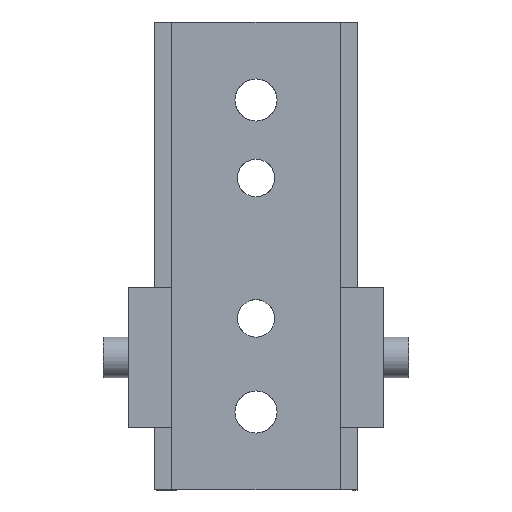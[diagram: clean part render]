
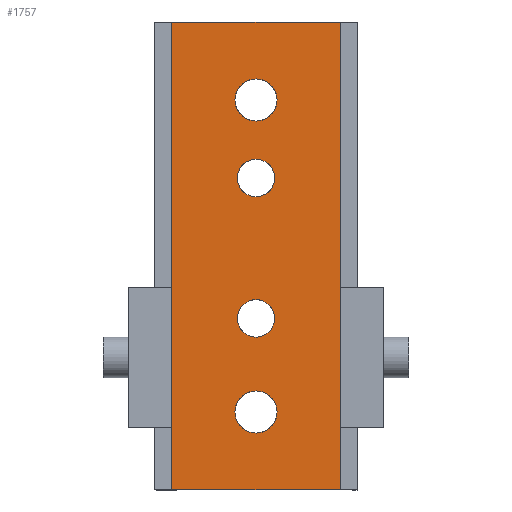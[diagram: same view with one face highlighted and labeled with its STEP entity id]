
A CAD part, front view. The second image highlights one B-rep face of the part: STEP entity #1757.
In plain terms, the highlighted planar face has unit normal (0, -1, 0).
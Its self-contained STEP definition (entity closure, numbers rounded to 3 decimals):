
#674=CARTESIAN_POINT('Vertex',(-5027.207,-575.36,0.)) ;
#677=CARTESIAN_POINT('Line Origine',(-5027.207,-575.36,75.)) ;
#681=CARTESIAN_POINT('Vertex',(-5027.207,-575.36,150.)) ;
#1567=CARTESIAN_POINT('Vertex',(-4973.207,-575.36,150.)) ;
#1570=CARTESIAN_POINT('Line Origine',(-4973.207,-575.36,75.)) ;
#1574=CARTESIAN_POINT('Vertex',(-4973.207,-575.36,0.)) ;
#1600=CARTESIAN_POINT('Axis2P3D Location',(-5027.207,-575.36,150.)) ;
#1605=CARTESIAN_POINT('Line Origine',(-5000.207,-575.36,0.)) ;
#1610=CARTESIAN_POINT('Line Origine',(-5000.207,-575.36,150.)) ;
#1621=CARTESIAN_POINT('Axis2P3D Location',(-5000.207,-575.36,100.)) ;
#1625=CARTESIAN_POINT('Vertex',(-4994.207,-575.36,100.)) ;
#1627=CARTESIAN_POINT('Vertex',(-5000.207,-575.36,94.)) ;
#1630=CARTESIAN_POINT('Axis2P3D Location',(-5000.207,-575.36,100.)) ;
#1634=CARTESIAN_POINT('Vertex',(-5006.207,-575.36,100.)) ;
#1637=CARTESIAN_POINT('Axis2P3D Location',(-5000.207,-575.36,100.)) ;
#1641=CARTESIAN_POINT('Vertex',(-5000.207,-575.36,106.)) ;
#1644=CARTESIAN_POINT('Axis2P3D Location',(-5000.207,-575.36,100.)) ;
#1655=CARTESIAN_POINT('Axis2P3D Location',(-5000.207,-575.36,55.)) ;
#1659=CARTESIAN_POINT('Vertex',(-4994.207,-575.36,55.)) ;
#1661=CARTESIAN_POINT('Vertex',(-5000.207,-575.36,49.)) ;
#1664=CARTESIAN_POINT('Axis2P3D Location',(-5000.207,-575.36,55.)) ;
#1668=CARTESIAN_POINT('Vertex',(-5006.207,-575.36,55.)) ;
#1671=CARTESIAN_POINT('Axis2P3D Location',(-5000.207,-575.36,55.)) ;
#1675=CARTESIAN_POINT('Vertex',(-5000.207,-575.36,61.)) ;
#1678=CARTESIAN_POINT('Axis2P3D Location',(-5000.207,-575.36,55.)) ;
#1689=CARTESIAN_POINT('Axis2P3D Location',(-5000.207,-575.36,125.)) ;
#1693=CARTESIAN_POINT('Vertex',(-4993.457,-575.36,125.)) ;
#1695=CARTESIAN_POINT('Vertex',(-5000.207,-575.36,118.25)) ;
#1698=CARTESIAN_POINT('Axis2P3D Location',(-5000.207,-575.36,125.)) ;
#1702=CARTESIAN_POINT('Vertex',(-5006.957,-575.36,125.)) ;
#1705=CARTESIAN_POINT('Axis2P3D Location',(-5000.207,-575.36,125.)) ;
#1709=CARTESIAN_POINT('Vertex',(-5000.207,-575.36,131.75)) ;
#1712=CARTESIAN_POINT('Axis2P3D Location',(-5000.207,-575.36,125.)) ;
#1723=CARTESIAN_POINT('Axis2P3D Location',(-5000.207,-575.36,25.)) ;
#1727=CARTESIAN_POINT('Vertex',(-4993.457,-575.36,25.)) ;
#1729=CARTESIAN_POINT('Vertex',(-5000.207,-575.36,18.25)) ;
#1732=CARTESIAN_POINT('Axis2P3D Location',(-5000.207,-575.36,25.)) ;
#1736=CARTESIAN_POINT('Vertex',(-5006.957,-575.36,25.)) ;
#1739=CARTESIAN_POINT('Axis2P3D Location',(-5000.207,-575.36,25.)) ;
#1743=CARTESIAN_POINT('Vertex',(-5000.207,-575.36,31.75)) ;
#1746=CARTESIAN_POINT('Axis2P3D Location',(-5000.207,-575.36,25.)) ;
#678=DIRECTION('Vector Direction',(0.,0.,-1.)) ;
#1571=DIRECTION('Vector Direction',(0.,0.,-1.)) ;
#1601=DIRECTION('Axis2P3D Direction',(0.,1.,0.)) ;
#1602=DIRECTION('Axis2P3D XDirection',(0.,-0.,1.)) ;
#1606=DIRECTION('Vector Direction',(1.,0.,0.)) ;
#1611=DIRECTION('Vector Direction',(1.,0.,0.)) ;
#1622=DIRECTION('Axis2P3D Direction',(0.,1.,0.)) ;
#1631=DIRECTION('Axis2P3D Direction',(0.,1.,0.)) ;
#1638=DIRECTION('Axis2P3D Direction',(0.,1.,0.)) ;
#1645=DIRECTION('Axis2P3D Direction',(0.,1.,0.)) ;
#1656=DIRECTION('Axis2P3D Direction',(0.,1.,0.)) ;
#1665=DIRECTION('Axis2P3D Direction',(0.,1.,0.)) ;
#1672=DIRECTION('Axis2P3D Direction',(0.,1.,0.)) ;
#1679=DIRECTION('Axis2P3D Direction',(0.,1.,0.)) ;
#1690=DIRECTION('Axis2P3D Direction',(0.,1.,0.)) ;
#1699=DIRECTION('Axis2P3D Direction',(0.,1.,0.)) ;
#1706=DIRECTION('Axis2P3D Direction',(0.,1.,0.)) ;
#1713=DIRECTION('Axis2P3D Direction',(0.,1.,0.)) ;
#1724=DIRECTION('Axis2P3D Direction',(0.,1.,0.)) ;
#1733=DIRECTION('Axis2P3D Direction',(0.,1.,0.)) ;
#1740=DIRECTION('Axis2P3D Direction',(0.,1.,0.)) ;
#1747=DIRECTION('Axis2P3D Direction',(0.,1.,0.)) ;
#1603=AXIS2_PLACEMENT_3D('Plane Axis2P3D',#1600,#1601,#1602) ;
#1623=AXIS2_PLACEMENT_3D('Circle Axis2P3D',#1621,#1622,$) ;
#1632=AXIS2_PLACEMENT_3D('Circle Axis2P3D',#1630,#1631,$) ;
#1639=AXIS2_PLACEMENT_3D('Circle Axis2P3D',#1637,#1638,$) ;
#1646=AXIS2_PLACEMENT_3D('Circle Axis2P3D',#1644,#1645,$) ;
#1657=AXIS2_PLACEMENT_3D('Circle Axis2P3D',#1655,#1656,$) ;
#1666=AXIS2_PLACEMENT_3D('Circle Axis2P3D',#1664,#1665,$) ;
#1673=AXIS2_PLACEMENT_3D('Circle Axis2P3D',#1671,#1672,$) ;
#1680=AXIS2_PLACEMENT_3D('Circle Axis2P3D',#1678,#1679,$) ;
#1691=AXIS2_PLACEMENT_3D('Circle Axis2P3D',#1689,#1690,$) ;
#1700=AXIS2_PLACEMENT_3D('Circle Axis2P3D',#1698,#1699,$) ;
#1707=AXIS2_PLACEMENT_3D('Circle Axis2P3D',#1705,#1706,$) ;
#1714=AXIS2_PLACEMENT_3D('Circle Axis2P3D',#1712,#1713,$) ;
#1725=AXIS2_PLACEMENT_3D('Circle Axis2P3D',#1723,#1724,$) ;
#1734=AXIS2_PLACEMENT_3D('Circle Axis2P3D',#1732,#1733,$) ;
#1741=AXIS2_PLACEMENT_3D('Circle Axis2P3D',#1739,#1740,$) ;
#1748=AXIS2_PLACEMENT_3D('Circle Axis2P3D',#1746,#1747,$) ;
#1616=ORIENTED_EDGE('',*,*,#1609,.T.) ;
#1617=ORIENTED_EDGE('',*,*,#1576,.F.) ;
#1618=ORIENTED_EDGE('',*,*,#1614,.F.) ;
#1619=ORIENTED_EDGE('',*,*,#683,.T.) ;
#1650=ORIENTED_EDGE('',*,*,#1629,.T.) ;
#1651=ORIENTED_EDGE('',*,*,#1636,.T.) ;
#1652=ORIENTED_EDGE('',*,*,#1643,.T.) ;
#1653=ORIENTED_EDGE('',*,*,#1648,.T.) ;
#1684=ORIENTED_EDGE('',*,*,#1663,.T.) ;
#1685=ORIENTED_EDGE('',*,*,#1670,.T.) ;
#1686=ORIENTED_EDGE('',*,*,#1677,.T.) ;
#1687=ORIENTED_EDGE('',*,*,#1682,.T.) ;
#1718=ORIENTED_EDGE('',*,*,#1697,.T.) ;
#1719=ORIENTED_EDGE('',*,*,#1704,.T.) ;
#1720=ORIENTED_EDGE('',*,*,#1711,.T.) ;
#1721=ORIENTED_EDGE('',*,*,#1716,.T.) ;
#1752=ORIENTED_EDGE('',*,*,#1731,.T.) ;
#1753=ORIENTED_EDGE('',*,*,#1738,.T.) ;
#1754=ORIENTED_EDGE('',*,*,#1745,.T.) ;
#1755=ORIENTED_EDGE('',*,*,#1750,.T.) ;
#1654=FACE_BOUND('',#1649,.T.) ;
#1688=FACE_BOUND('',#1683,.T.) ;
#1722=FACE_BOUND('',#1717,.T.) ;
#1756=FACE_BOUND('',#1751,.T.) ;
#679=VECTOR('Line Direction',#678,1.) ;
#1572=VECTOR('Line Direction',#1571,1.) ;
#1607=VECTOR('Line Direction',#1606,1.) ;
#1612=VECTOR('Line Direction',#1611,1.) ;
#1757=ADVANCED_FACE('A945-01-615-01-S-BC',(#1620,#1654,#1688,#1722,#1756),#1604,.F.) ;
#1624=CIRCLE('generated circle',#1623,6.) ;
#1633=CIRCLE('generated circle',#1632,6.) ;
#1640=CIRCLE('generated circle',#1639,6.) ;
#1647=CIRCLE('generated circle',#1646,6.) ;
#1658=CIRCLE('generated circle',#1657,6.) ;
#1667=CIRCLE('generated circle',#1666,6.) ;
#1674=CIRCLE('generated circle',#1673,6.) ;
#1681=CIRCLE('generated circle',#1680,6.) ;
#1692=CIRCLE('generated circle',#1691,6.75) ;
#1701=CIRCLE('generated circle',#1700,6.75) ;
#1708=CIRCLE('generated circle',#1707,6.75) ;
#1715=CIRCLE('generated circle',#1714,6.75) ;
#1726=CIRCLE('generated circle',#1725,6.75) ;
#1735=CIRCLE('generated circle',#1734,6.75) ;
#1742=CIRCLE('generated circle',#1741,6.75) ;
#1749=CIRCLE('generated circle',#1748,6.75) ;
#683=EDGE_CURVE('',#682,#675,#680,.T.) ;
#1576=EDGE_CURVE('',#1568,#1575,#1573,.T.) ;
#1609=EDGE_CURVE('',#675,#1575,#1608,.T.) ;
#1614=EDGE_CURVE('',#682,#1568,#1613,.T.) ;
#1629=EDGE_CURVE('',#1626,#1628,#1624,.T.) ;
#1636=EDGE_CURVE('',#1628,#1635,#1633,.T.) ;
#1643=EDGE_CURVE('',#1635,#1642,#1640,.T.) ;
#1648=EDGE_CURVE('',#1642,#1626,#1647,.T.) ;
#1663=EDGE_CURVE('',#1660,#1662,#1658,.T.) ;
#1670=EDGE_CURVE('',#1662,#1669,#1667,.T.) ;
#1677=EDGE_CURVE('',#1669,#1676,#1674,.T.) ;
#1682=EDGE_CURVE('',#1676,#1660,#1681,.T.) ;
#1697=EDGE_CURVE('',#1694,#1696,#1692,.T.) ;
#1704=EDGE_CURVE('',#1696,#1703,#1701,.T.) ;
#1711=EDGE_CURVE('',#1703,#1710,#1708,.T.) ;
#1716=EDGE_CURVE('',#1710,#1694,#1715,.T.) ;
#1731=EDGE_CURVE('',#1728,#1730,#1726,.T.) ;
#1738=EDGE_CURVE('',#1730,#1737,#1735,.T.) ;
#1745=EDGE_CURVE('',#1737,#1744,#1742,.T.) ;
#1750=EDGE_CURVE('',#1744,#1728,#1749,.T.) ;
#1615=EDGE_LOOP('',(#1616,#1617,#1618,#1619)) ;
#1649=EDGE_LOOP('',(#1650,#1651,#1652,#1653)) ;
#1683=EDGE_LOOP('',(#1684,#1685,#1686,#1687)) ;
#1717=EDGE_LOOP('',(#1718,#1719,#1720,#1721)) ;
#1751=EDGE_LOOP('',(#1752,#1753,#1754,#1755)) ;
#1620=FACE_OUTER_BOUND('',#1615,.T.) ;
#680=LINE('Line',#677,#679) ;
#1573=LINE('Line',#1570,#1572) ;
#1608=LINE('Line',#1605,#1607) ;
#1613=LINE('Line',#1610,#1612) ;
#1604=PLANE('Plane',#1603) ;
#675=VERTEX_POINT('',#674) ;
#682=VERTEX_POINT('',#681) ;
#1568=VERTEX_POINT('',#1567) ;
#1575=VERTEX_POINT('',#1574) ;
#1626=VERTEX_POINT('',#1625) ;
#1628=VERTEX_POINT('',#1627) ;
#1635=VERTEX_POINT('',#1634) ;
#1642=VERTEX_POINT('',#1641) ;
#1660=VERTEX_POINT('',#1659) ;
#1662=VERTEX_POINT('',#1661) ;
#1669=VERTEX_POINT('',#1668) ;
#1676=VERTEX_POINT('',#1675) ;
#1694=VERTEX_POINT('',#1693) ;
#1696=VERTEX_POINT('',#1695) ;
#1703=VERTEX_POINT('',#1702) ;
#1710=VERTEX_POINT('',#1709) ;
#1728=VERTEX_POINT('',#1727) ;
#1730=VERTEX_POINT('',#1729) ;
#1737=VERTEX_POINT('',#1736) ;
#1744=VERTEX_POINT('',#1743) ;
